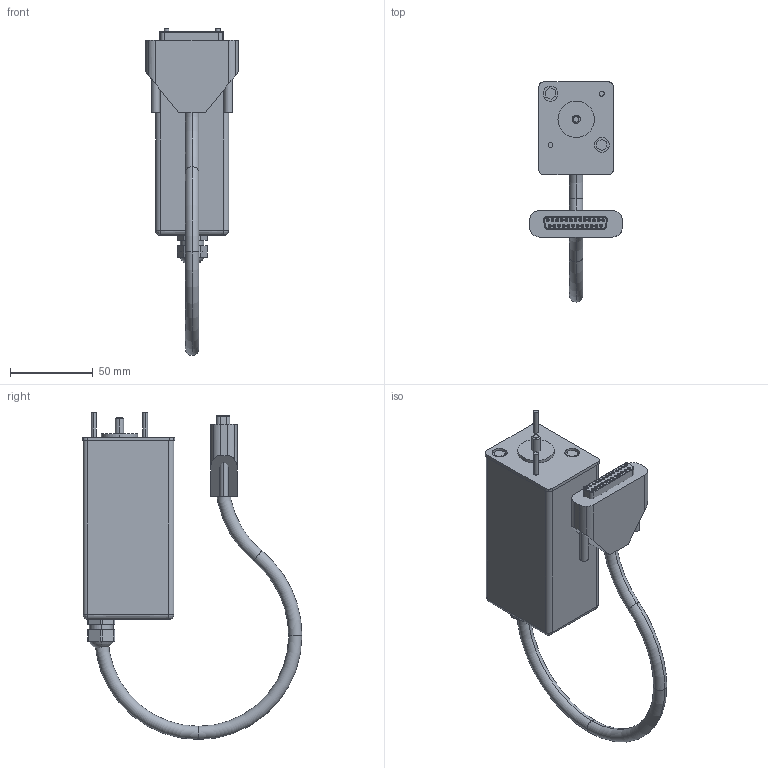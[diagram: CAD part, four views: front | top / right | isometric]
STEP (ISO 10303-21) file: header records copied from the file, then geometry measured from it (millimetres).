
FILE_DESCRIPTION(('STEP AP214'),'1');
FILE_NAME('Z:\toNS\tmp0.step',' ',(' '),(' '),'XStep 1.0',' ',' ');
FILE_SCHEMA(('automotive_design'));
Length unit declared in the file: millimetre
Bounding box: 56 x 132.82 x 197.58 mm (x, y, z)
Volume: 317358.3 mm3; surface area: 51341.7 mm2
Topology: 16 solids, 147 shells, 272 faces, 1747 edges, 1630 vertices
Faces by surface type: revolution 116, plane 81, cylinder 40, bspline 23, torus 8, sphere 2, cone 2
Entity records: 24163 total; most frequent: CARTESIAN_POINT 7115, ORIENTED_EDGE 2050, DIRECTION 1882, EDGE_CURVE 1739, VERTEX_POINT 1630, B_SPLINE_CURVE_WITH_KNOTS 1016, AXIS2_PLACEMENT_3D 649, LINE 468
